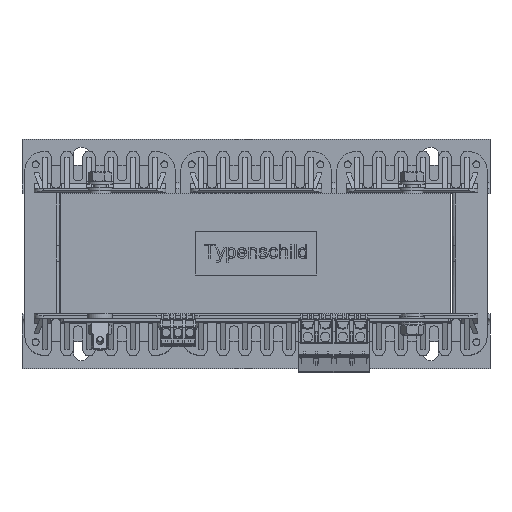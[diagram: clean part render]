
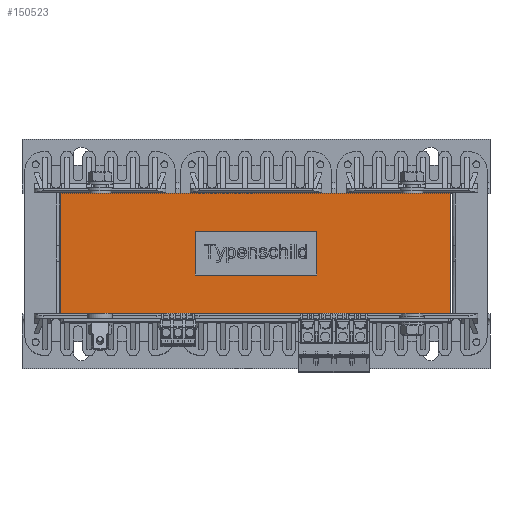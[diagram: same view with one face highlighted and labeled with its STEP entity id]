
A CAD part, top view. The second image highlights one B-rep face of the part: STEP entity #150523.
In plain terms, the highlighted planar face has unit normal (0, 0, 1).
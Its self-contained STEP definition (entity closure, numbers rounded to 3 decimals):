
#2747=FACE_BOUND('',#15798,.T.);
#7862=FACE_OUTER_BOUND('',#15797,.T.);
#15797=EDGE_LOOP('',(#119620,#119621,#119622,#119623));
#15798=EDGE_LOOP('',(#119624,#119625,#119626,#119627));
#31370=LINE('',#230428,#48793);
#31373=LINE('',#230433,#48796);
#31375=LINE('',#230437,#48798);
#31376=LINE('',#230439,#48799);
#33671=LINE('',#242009,#51094);
#33672=LINE('',#242011,#51095);
#33673=LINE('',#242013,#51096);
#33674=LINE('',#242014,#51097);
#48793=VECTOR('',#182176,10.);
#48796=VECTOR('',#182181,10.);
#48798=VECTOR('',#182185,10.);
#48799=VECTOR('',#182188,10.);
#51094=VECTOR('',#188505,10.);
#51095=VECTOR('',#188506,10.);
#51096=VECTOR('',#188507,10.);
#51097=VECTOR('',#188508,10.);
#63882=VERTEX_POINT('',#230425);
#63883=VERTEX_POINT('',#230427);
#63884=VERTEX_POINT('',#230431);
#63885=VERTEX_POINT('',#230435);
#65901=VERTEX_POINT('',#242007);
#65902=VERTEX_POINT('',#242008);
#65903=VERTEX_POINT('',#242010);
#65904=VERTEX_POINT('',#242012);
#81198=EDGE_CURVE('',#63883,#63882,#31370,.T.);
#81201=EDGE_CURVE('',#63882,#63884,#31373,.T.);
#81203=EDGE_CURVE('',#63884,#63885,#31375,.T.);
#81204=EDGE_CURVE('',#63885,#63883,#31376,.T.);
#84515=EDGE_CURVE('',#65901,#65902,#33671,.T.);
#84516=EDGE_CURVE('',#65902,#65903,#33672,.T.);
#84517=EDGE_CURVE('',#65903,#65904,#33673,.T.);
#84518=EDGE_CURVE('',#65904,#65901,#33674,.T.);
#119620=ORIENTED_EDGE('',*,*,#84515,.T.);
#119621=ORIENTED_EDGE('',*,*,#84516,.T.);
#119622=ORIENTED_EDGE('',*,*,#84517,.T.);
#119623=ORIENTED_EDGE('',*,*,#84518,.T.);
#119624=ORIENTED_EDGE('',*,*,#81198,.T.);
#119625=ORIENTED_EDGE('',*,*,#81201,.T.);
#119626=ORIENTED_EDGE('',*,*,#81203,.T.);
#119627=ORIENTED_EDGE('',*,*,#81204,.T.);
#138439=PLANE('',#159819);
#150523=ADVANCED_FACE('',(#7862,#2747),#138439,.T.);
#159819=AXIS2_PLACEMENT_3D('',#242006,#188503,#188504);
#182176=DIRECTION('',(0.,1.,0.));
#182181=DIRECTION('',(1.,0.,0.));
#182185=DIRECTION('',(0.,-1.,0.));
#182188=DIRECTION('',(-1.,0.,0.));
#188503=DIRECTION('center_axis',(0.,0.,1.));
#188504=DIRECTION('ref_axis',(-1.,0.,0.));
#188505=DIRECTION('',(1.,0.,0.));
#188506=DIRECTION('',(0.,1.,0.));
#188507=DIRECTION('',(-1.,0.,0.));
#188508=DIRECTION('',(0.,-1.,0.));
#230425=CARTESIAN_POINT('',(-39.,14.,125.));
#230427=CARTESIAN_POINT('',(-39.,-14.,125.));
#230428=CARTESIAN_POINT('',(-39.,-7.,125.));
#230431=CARTESIAN_POINT('',(39.,14.,125.));
#230433=CARTESIAN_POINT('',(-82.,14.,125.));
#230435=CARTESIAN_POINT('',(39.,-14.,125.));
#230437=CARTESIAN_POINT('',(39.,7.,125.));
#230439=CARTESIAN_POINT('',(-43.,-14.,125.));
#242006=CARTESIAN_POINT('Origin',(-125.,0.,125.));
#242007=CARTESIAN_POINT('',(-125.,-38.5,125.));
#242008=CARTESIAN_POINT('',(125.,-38.5,125.));
#242009=CARTESIAN_POINT('',(-125.,-38.5,125.));
#242010=CARTESIAN_POINT('',(125.,38.5,125.));
#242011=CARTESIAN_POINT('',(125.,0.,125.));
#242012=CARTESIAN_POINT('',(-125.,38.5,125.));
#242013=CARTESIAN_POINT('',(-125.,38.5,125.));
#242014=CARTESIAN_POINT('',(-125.,0.,125.));
